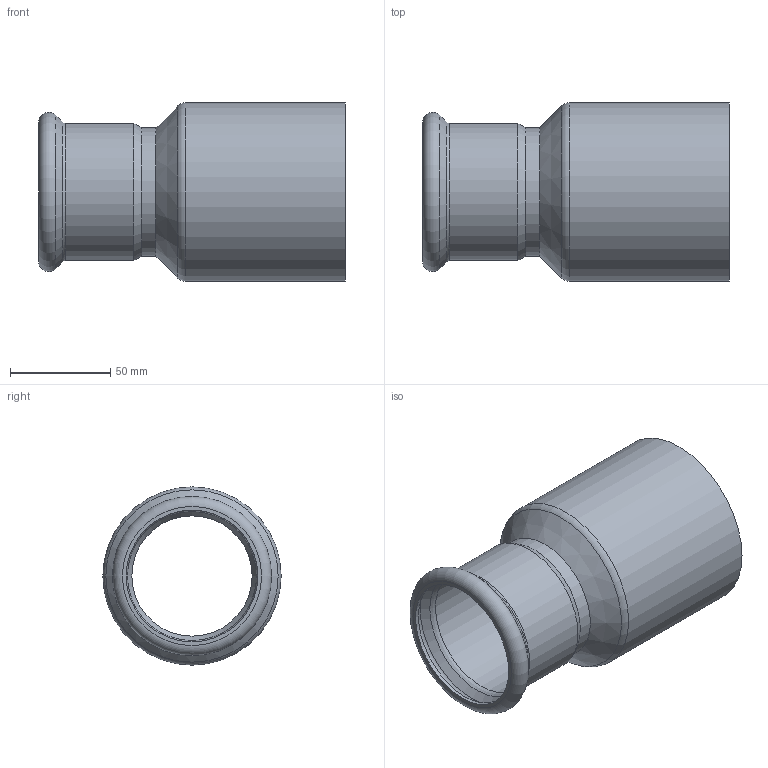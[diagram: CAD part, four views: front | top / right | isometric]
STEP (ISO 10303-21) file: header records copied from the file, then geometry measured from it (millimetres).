
FILE_DESCRIPTION((''),'2;1');
FILE_NAME('G:\Nirosan-Schmiedefeld\Technics\CAD\Bauteile VA\089\692438964(0).stp','2008-09-22T11:47:18',('herberg'),(''),'Autodesk Inventor 2009','Autodesk Inventor 2009','');
FILE_SCHEMA(('AUTOMOTIVE_DESIGN { 1 0 10303 214 1 1 1 1 }'));
Length unit declared in the file: millimetre
Products named in the file (3): 692438964(0); R_692438964(0); HM_6924364(0)
Assembly tree (2 placements, depth 2):
  692438964(0)
    R_692438964(0)
    HM_6924364(0)
Bounding box: 153 x 88.9 x 88.9 mm (x, y, z)
Volume: 80104.5 mm3; surface area: 81844.3 mm2
Topology: 2 solids, 2 shells, 25 faces, 46 edges, 26 vertices
Faces by surface type: cylinder 8, cone 6, plane 5, torus 3, bspline 3
Full cylindrical faces by diameter (mm): 60 x2, 64 x1, 64.4 x1, 65.7 x1, 68.4 x1, 84.9 x1, 88.9 x1
Entity records: 714 total; most frequent: CARTESIAN_POINT 212, DIRECTION 104, AXIS2_PLACEMENT_3D 52, ORIENTED_EDGE 50, EDGE_LOOP 50, VERTEX_POINT 25, CIRCLE 25, EDGE_CURVE 25
